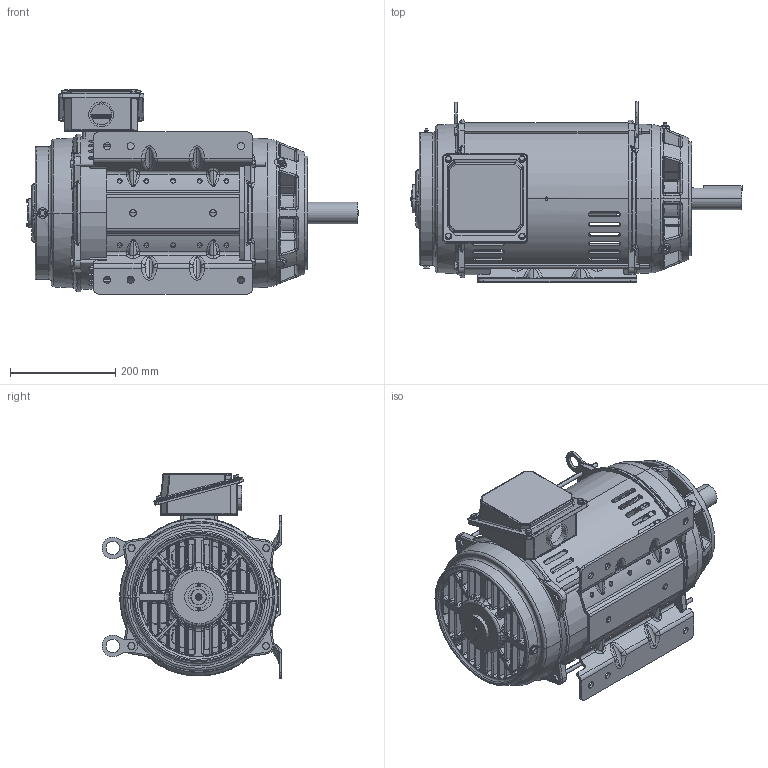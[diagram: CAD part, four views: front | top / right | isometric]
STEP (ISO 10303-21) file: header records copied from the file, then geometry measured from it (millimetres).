
FILE_DESCRIPTION (( 'STEP AP203' ), '1' );
FILE_NAME ('SS621180-200_RevB.STEP', '2022-07-14T15:17:49', ( '' ), ( '' ), 'SwSTEP 2.0', 'SolidWorks 2021', '' );
FILE_SCHEMA (( 'CONFIG_CONTROL_DESIGN' ));
Products named in the file (1): SS621180-200_RevB
Bounding box: 630.59 x 341.82 x 388.85 mm (x, y, z)
Volume: 7367809.9 mm3; surface area: 1876941.8 mm2
Topology: 44 solids, 44 shells, 3534 faces, 9057 edges, 5357 vertices
Faces by surface type: cylinder 1159, bspline 902, plane 732, cone 339, torus 323, sphere 79
Entity records: 176597 total; most frequent: CARTESIAN_POINT 99990, ORIENTED_EDGE 17636, DIRECTION 14126, EDGE_CURVE 8818, AXIS2_PLACEMENT_3D 5735, VERTEX_POINT 5353, EDGE_LOOP 3845, FACE_OUTER_BOUND 3534
